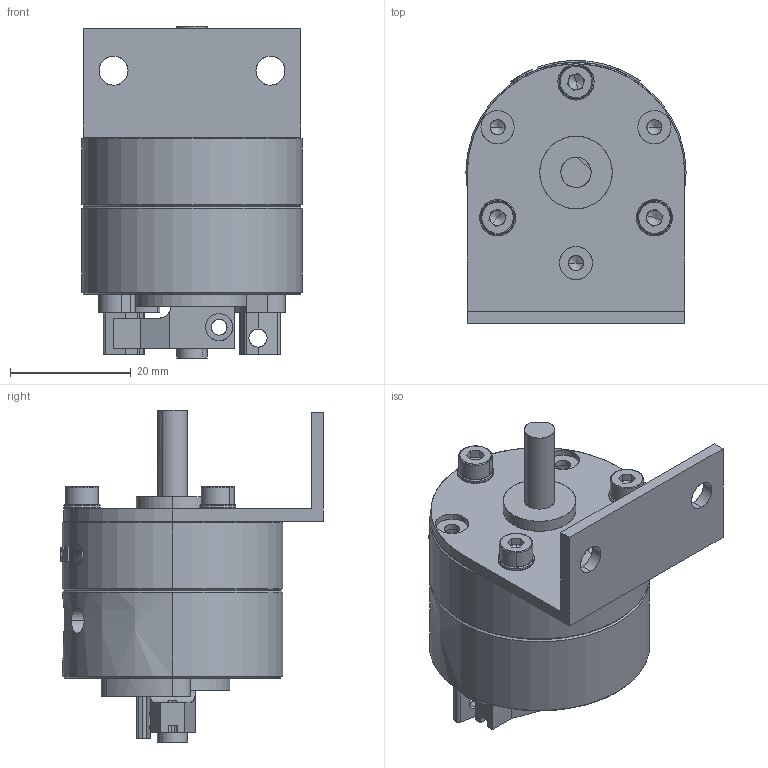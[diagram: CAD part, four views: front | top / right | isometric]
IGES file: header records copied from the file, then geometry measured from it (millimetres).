
Start section: SolidWorks IGES file using analytic representation for surfaces
Global section: file name: C:\Users\Chieh_Lu\Dropbox\¤u§@«Ç\PRO\PROA3S\PROA3S-#-#\PROA3S-#-#-L1.IGS; native system: SolidWorks 2014; preprocessor: SolidWorks 2014; author: Chieh_Lu; date: 150801.211313; units: millimetre
Bounding box: 36.5 x 43.55 x 55 mm (x, y, z)
Surface area: 16542.8 mm2 (no closed solid volume)
Topology: 0 solids, 0 shells, 487 faces, 7359 edges, 7343 vertices
Faces by surface type: bspline 252, revolution 235
